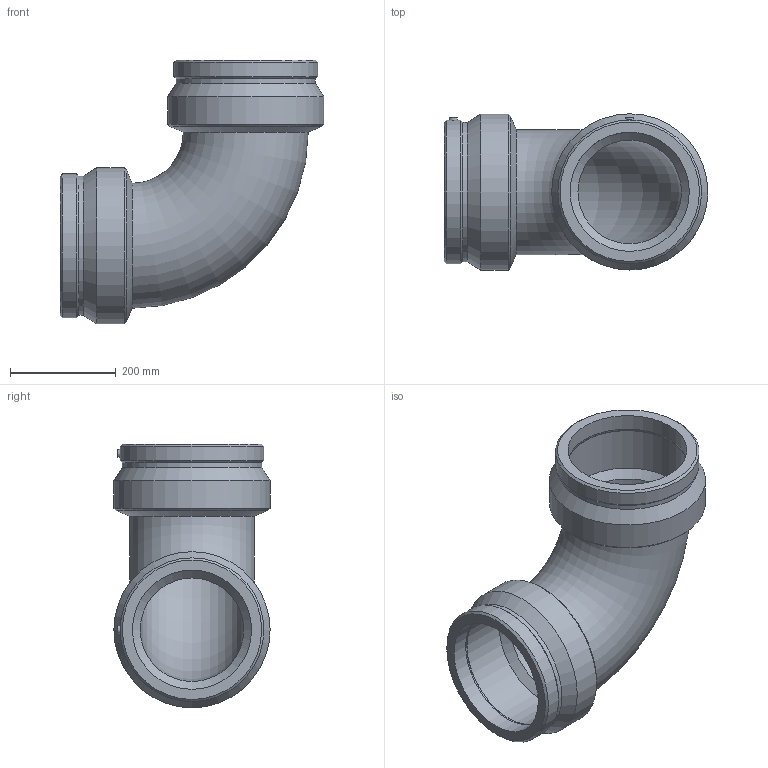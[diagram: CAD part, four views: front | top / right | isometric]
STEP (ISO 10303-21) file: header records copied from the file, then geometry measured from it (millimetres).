
FILE_DESCRIPTION(/* description */ ('PLASSON 90° ELBOW 225'),/* implementation_level */ '2;1');
FILE_NAME(/* name */ '490504225.stp',/* time_stamp */ '2026-03-22T13:12:56+02:00',/* author */ ('KIM'),/* organization */ (''),/* preprocessor_version */ 'ST-DEVELOPER v20.1',/* originating_system */ 'Autodesk Inventor 2026',/* authorisation */ '');
FILE_SCHEMA (('AUTOMOTIVE_DESIGN { 1 0 10303 214 3 1 1 }'));
Length unit declared in the file: millimetre
Products named in the file (1): 490504225
Bounding box: 498 x 295 x 498 mm (x, y, z)
Volume: 10846632.2 mm3; surface area: 972191.3 mm2
Topology: 1 solids, 1 shells, 42 faces, 82 edges, 50 vertices
Faces by surface type: cone 16, cylinder 14, plane 10, torus 2
Full cylindrical faces by diameter (mm): 4 x2, 10 x2, 225 x4, 263.258 x2, 271.4 x2, 295 x2
Entity records: 1189 total; most frequent: CARTESIAN_POINT 243, DIRECTION 212, ORIENTED_EDGE 164, AXIS2_PLACEMENT_3D 91, EDGE_CURVE 82, EDGE_LOOP 52, VERTEX_POINT 50, CIRCLE 48
